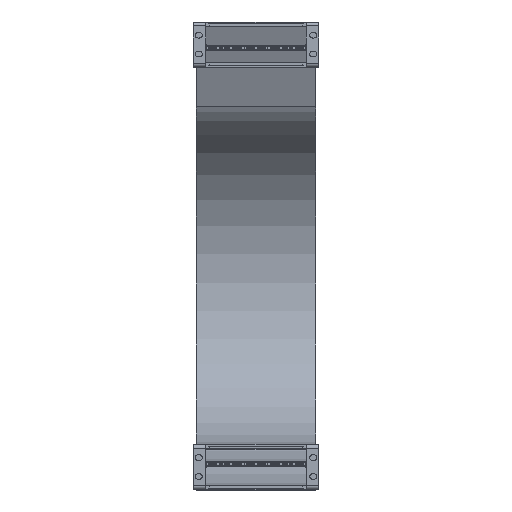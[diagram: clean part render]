
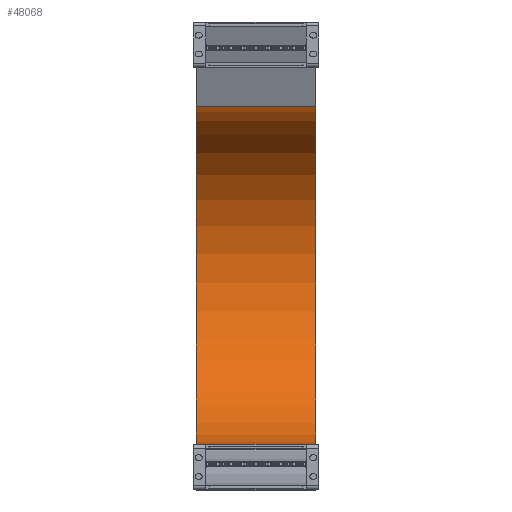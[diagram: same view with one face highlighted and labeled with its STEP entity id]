
A CAD part, top view. The second image highlights one B-rep face of the part: STEP entity #48068.
In plain terms, the highlighted cylindrical face has radius 134.5 mm (diameter 269 mm), a partial arc.
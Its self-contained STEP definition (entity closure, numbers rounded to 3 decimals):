
#47220=DIRECTION('',(-1.,0.,0.));
#47221=VECTOR('',#47220,95.);
#47222=CARTESIAN_POINT('',(47.5,36.,-400.));
#47223=LINE('',#47222,#47221);
#47234=DIRECTION('',(-1.,0.,0.));
#47235=VECTOR('',#47234,95.);
#47236=CARTESIAN_POINT('',(47.5,304.499,-411.602));
#47237=LINE('',#47236,#47235);
#47241=CARTESIAN_POINT('',(47.5,170.5,-400.));
#47242=DIRECTION('',(-1.,0.,0.));
#47243=DIRECTION('',(0.,0.996,-0.086));
#47244=AXIS2_PLACEMENT_3D('',#47241,#47242,#47243);
#47320=CARTESIAN_POINT('',(-47.5,170.5,-400.));
#47321=DIRECTION('',(-1.,0.,0.));
#47322=DIRECTION('',(0.,0.996,-0.086));
#47323=AXIS2_PLACEMENT_3D('',#47320,#47321,#47322);
#47442=CARTESIAN_POINT('',(47.5,304.499,-411.602));
#47443=CARTESIAN_POINT('',(-47.5,304.499,-411.602));
#47444=VERTEX_POINT('',#47442);
#47445=VERTEX_POINT('',#47443);
#47466=CARTESIAN_POINT('',(47.5,36.,-400.));
#47467=CARTESIAN_POINT('',(-47.5,36.,-400.));
#47468=VERTEX_POINT('',#47466);
#47469=VERTEX_POINT('',#47467);
#48054=CARTESIAN_POINT('',(1.,170.5,-400.));
#48055=DIRECTION('',(-1.,0.,0.));
#48056=DIRECTION('',(0.,-0.996,0.086));
#48057=AXIS2_PLACEMENT_3D('',#48054,#48055,#48056);
#48058=CYLINDRICAL_SURFACE('',#48057,134.5);
#48060=ORIENTED_EDGE('',*,*,#48059,.F.);
#48062=ORIENTED_EDGE('',*,*,#48061,.T.);
#48063=ORIENTED_EDGE('',*,*,#48037,.T.);
#48065=ORIENTED_EDGE('',*,*,#48064,.F.);
#48066=EDGE_LOOP('',(#48060,#48062,#48063,#48065));
#48067=FACE_OUTER_BOUND('',#48066,.F.);
#47245=CIRCLE('',#47244,134.5);
#47324=CIRCLE('',#47323,134.5);
#48037=EDGE_CURVE('',#47468,#47469,#47223,.T.);
#48059=EDGE_CURVE('',#47444,#47445,#47237,.T.);
#48061=EDGE_CURVE('',#47444,#47468,#47245,.T.);
#48064=EDGE_CURVE('',#47445,#47469,#47324,.T.);
#48068=ADVANCED_FACE('',(#48067),#48058,.F.);
